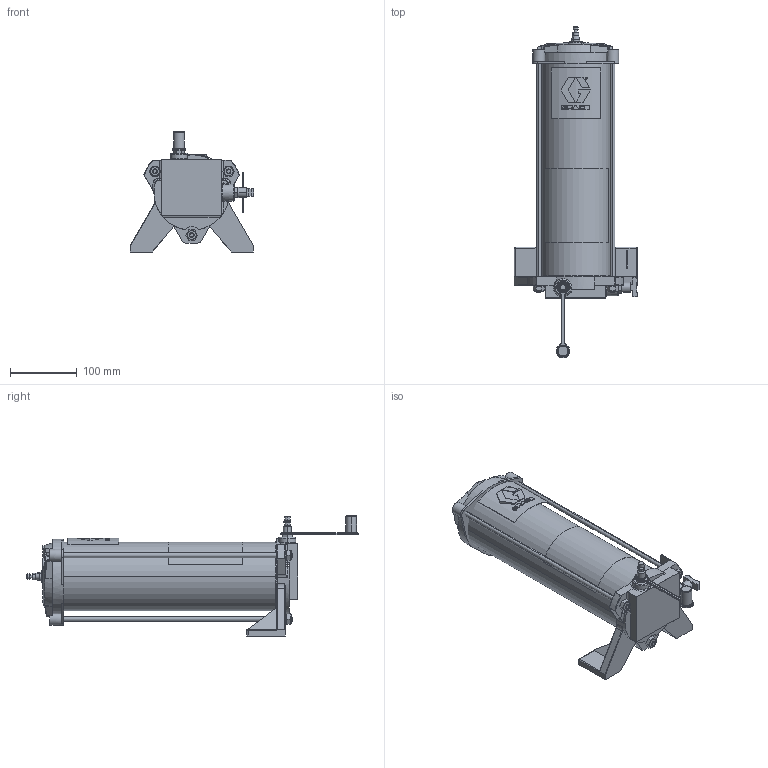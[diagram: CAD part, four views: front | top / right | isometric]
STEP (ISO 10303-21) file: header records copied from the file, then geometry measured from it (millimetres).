
FILE_DESCRIPTION((''),'2;1');
FILE_NAME('562888-EN-F_PRT','2022-06-21T15:01:49',('qufmd1'),(''),'CREO PARAMETRIC BY PTC INC, 2021072','CREO PARAMETRIC BY PTC INC, 2021072','');
FILE_SCHEMA(('CONFIG_CONTROL_DESIGN'));
Length unit declared in the file: inch
Products named in the file (1): 562888-EN-F_PRT
Bounding box: 184.99 x 496.06 x 179.37 mm (x, y, z)
Surface area: 274586.1 mm2 (no closed solid volume)
Topology: 0 solids, 91 shells, 471 faces, 2015 edges, 1605 vertices
Faces by surface type: plane 239, cylinder 164, cone 35, torus 31, sphere 2
Entity records: 22336 total; most frequent: CARTESIAN_POINT 6719, DIRECTION 3041, ORIENTED_EDGE 2921, EDGE_CURVE 2015, VERTEX_POINT 1605, VECTOR 1099, LINE 1099, AXIS2_PLACEMENT_3D 971
